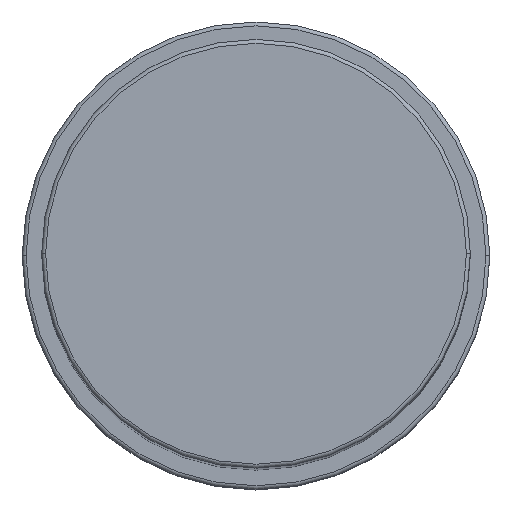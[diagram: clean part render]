
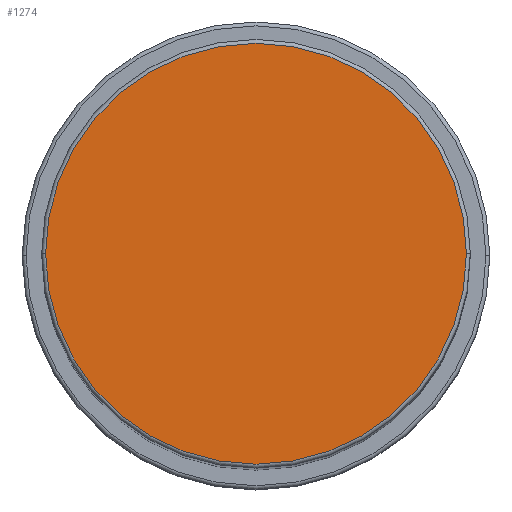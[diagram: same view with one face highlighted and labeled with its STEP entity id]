
A CAD part, top view. The second image highlights one B-rep face of the part: STEP entity #1274.
In plain terms, the highlighted planar face has unit normal (0, 0, 1).
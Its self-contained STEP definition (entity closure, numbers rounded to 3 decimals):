
#138 = CIRCLE ( 'NONE', #510, 27. ) ;
#152 = DIRECTION ( 'NONE',  ( 0., 0., 1. ) ) ;
#231 = DIRECTION ( 'NONE',  ( 1., 0., 0. ) ) ;
#305 = CARTESIAN_POINT ( 'NONE',  ( -27., 0., 163. ) ) ;
#317 = CARTESIAN_POINT ( 'NONE',  ( 27., 0., 163. ) ) ;
#324 = DIRECTION ( 'NONE',  ( 1., 0., 0. ) ) ;
#510 = AXIS2_PLACEMENT_3D ( 'NONE', #819, #1466, #324 ) ;
#680 = ORIENTED_EDGE ( 'NONE', *, *, #1145, .T. ) ;
#712 = VERTEX_POINT ( 'NONE', #317 ) ;
#714 = DIRECTION ( 'NONE',  ( 0., 0., 1. ) ) ;
#726 = CARTESIAN_POINT ( 'NONE',  ( 0., 0., 163. ) ) ;
#773 = PLANE ( 'NONE',  #1545 ) ;
#779 = AXIS2_PLACEMENT_3D ( 'NONE', #726, #714, #1614 ) ;
#819 = CARTESIAN_POINT ( 'NONE',  ( 0., 0., 163. ) ) ;
#828 = ORIENTED_EDGE ( 'NONE', *, *, #1068, .T. ) ;
#1027 = FACE_OUTER_BOUND ( 'NONE', #1456, .T. ) ;
#1068 = EDGE_CURVE ( 'NONE', #712, #1478, #138, .T. ) ;
#1142 = CIRCLE ( 'NONE', #779, 27. ) ;
#1145 = EDGE_CURVE ( 'NONE', #1478, #712, #1142, .T. ) ;
#1274 = ADVANCED_FACE ( 'NONE', ( #1027 ), #773, .T. ) ;
#1412 = CARTESIAN_POINT ( 'NONE',  ( 0., 0., 163. ) ) ;
#1456 = EDGE_LOOP ( 'NONE', ( #828, #680 ) ) ;
#1466 = DIRECTION ( 'NONE',  ( 0., 0., 1. ) ) ;
#1478 = VERTEX_POINT ( 'NONE', #305 ) ;
#1545 = AXIS2_PLACEMENT_3D ( 'NONE', #1412, #152, #231 ) ;
#1614 = DIRECTION ( 'NONE',  ( 1., 0., 0. ) ) ;
